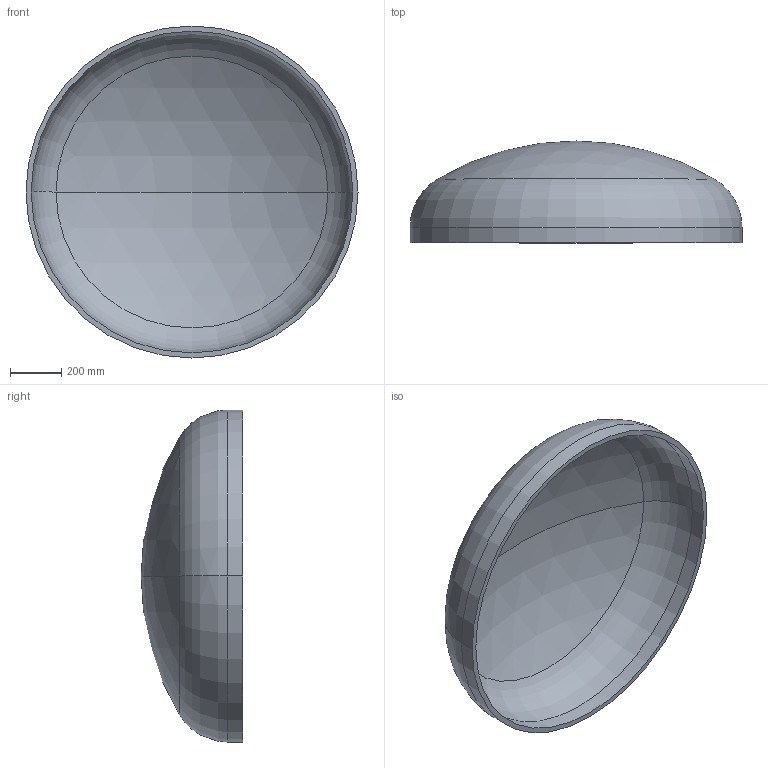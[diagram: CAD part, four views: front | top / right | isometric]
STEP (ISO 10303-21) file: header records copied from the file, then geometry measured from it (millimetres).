
FILE_DESCRIPTION (( 'STEP AP203' ), '1' );
FILE_NAME ('DIN 28013 Korbbogenform_-_Boden DIN 28013 - 1300 x 60 - I - s=20.step', '2016-07-01T09:45:25', ( '' ), ( '' ), 'SwSTEP 2.0', 'SolidWorks 2013', '' );
FILE_SCHEMA (( 'CONFIG_CONTROL_DESIGN' ));
Length unit declared in the file: millimetre
Products named in the file (1): DIN 28013 Korbbogenform_-_Boden DIN 28013 - 1300 x 60 - I - s=20
Bounding box: 1300 x 398.4 x 1300 mm (x, y, z)
Volume: 40845548.4 mm3; surface area: 4165816 mm2
Topology: 1 solids, 1 shells, 13 faces, 24 edges, 14 vertices
Faces by surface type: torus 4, cylinder 4, sphere 4, plane 1
Entity records: 407 total; most frequent: DIRECTION 72, CARTESIAN_POINT 52, ORIENTED_EDGE 48, AXIS2_PLACEMENT_3D 34, EDGE_CURVE 24, CIRCLE 20, EDGE_LOOP 14, VERTEX_POINT 14
